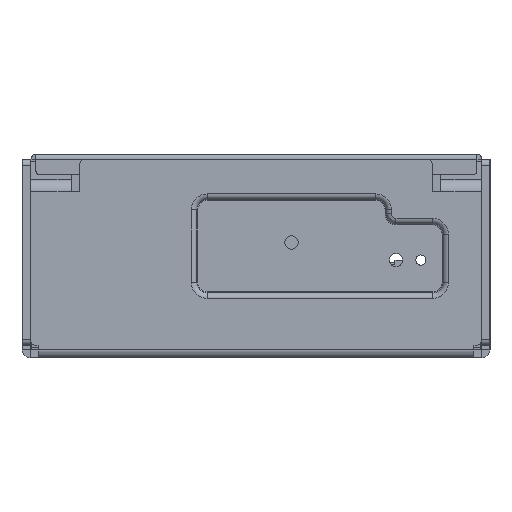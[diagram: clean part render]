
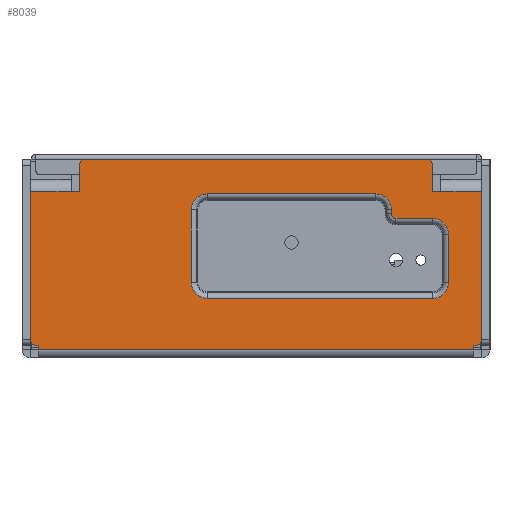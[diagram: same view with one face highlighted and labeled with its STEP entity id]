
A CAD part, left-side view. The second image highlights one B-rep face of the part: STEP entity #8039.
In plain terms, the highlighted planar face has unit normal (-1, 0, 0).
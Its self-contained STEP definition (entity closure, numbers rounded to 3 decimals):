
#1179=DIRECTION('',(0.,0.,1.));
#1180=VECTOR('',#1179,1.);
#1181=CARTESIAN_POINT('',(0.,-44.889,0.));
#1182=LINE('',#1181,#1180);
#1702=DIRECTION('',(0.,-1.,0.));
#1703=VECTOR('',#1702,107.);
#1704=CARTESIAN_POINT('',(0.,62.111,0.));
#1705=LINE('',#1704,#1703);
#1706=CARTESIAN_POINT('',(0.,50.511,45.3));
#1707=DIRECTION('',(1.,0.,0.));
#1708=DIRECTION('',(0.,1.,0.));
#1709=AXIS2_PLACEMENT_3D('',#1706,#1707,#1708);
#1711=CARTESIAN_POINT('',(0.,-33.289,45.3));
#1712=DIRECTION('',(1.,0.,0.));
#1713=DIRECTION('',(0.,0.,1.));
#1714=AXIS2_PLACEMENT_3D('',#1711,#1712,#1713);
#1716=DIRECTION('',(0.,0.,-1.));
#1717=VECTOR('',#1716,6.5);
#1718=CARTESIAN_POINT('',(0.,-34.789,45.3));
#1719=LINE('',#1718,#1717);
#1720=CARTESIAN_POINT('',(0.,-45.289,2.5));
#1721=DIRECTION('',(1.,0.,0.));
#1722=DIRECTION('',(0.,-1.,0.));
#1723=AXIS2_PLACEMENT_3D('',#1720,#1721,#1722);
#1725=DIRECTION('',(0.,0.,1.));
#1726=VECTOR('',#1725,1.);
#1727=CARTESIAN_POINT('',(0.,62.111,0.));
#1728=LINE('',#1727,#1726);
#1729=CARTESIAN_POINT('',(0.,62.511,2.5));
#1730=DIRECTION('',(1.,0.,0.));
#1731=DIRECTION('',(0.,0.,-1.));
#1732=AXIS2_PLACEMENT_3D('',#1729,#1730,#1731);
#1734=CARTESIAN_POINT('',(0.,-20.789,34.344));
#1735=DIRECTION('',(-1.,0.,0.));
#1736=DIRECTION('',(0.,-1.,0.));
#1737=AXIS2_PLACEMENT_3D('',#1734,#1735,#1736);
#1739=CARTESIAN_POINT('',(0.,20.611,34.344));
#1740=DIRECTION('',(-1.,0.,0.));
#1741=DIRECTION('',(0.,0.,1.));
#1742=AXIS2_PLACEMENT_3D('',#1739,#1740,#1741);
#1744=CARTESIAN_POINT('',(0.,20.611,16.5));
#1745=DIRECTION('',(-1.,0.,0.));
#1746=DIRECTION('',(0.,1.,0.));
#1747=AXIS2_PLACEMENT_3D('',#1744,#1745,#1746);
#1749=CARTESIAN_POINT('',(0.,-34.789,16.5));
#1750=DIRECTION('',(-1.,0.,0.));
#1751=DIRECTION('',(0.,0.,-1.));
#1752=AXIS2_PLACEMENT_3D('',#1749,#1750,#1751);
#1754=CARTESIAN_POINT('',(0.,-34.789,28.344));
#1755=DIRECTION('',(-1.,0.,0.));
#1756=DIRECTION('',(0.,-1.,0.));
#1757=AXIS2_PLACEMENT_3D('',#1754,#1755,#1756);
#1759=CARTESIAN_POINT('',(0.,-25.789,
33.344));
#1760=DIRECTION('',(1.,0.,0.));
#1761=DIRECTION('',(0.,0.,-1.));
#1762=AXIS2_PLACEMENT_3D('',#1759,#1760,#1761);
#1772=DIRECTION('',(0.,1.,0.));
#1773=VECTOR('',#1772,83.8);
#1774=CARTESIAN_POINT('',(0.,-33.289,46.8));
#1775=LINE('',#1774,#1773);
#1792=DIRECTION('',(0.,1.,0.));
#1793=VECTOR('',#1792,2.);
#1794=CARTESIAN_POINT('',(0.,-36.789,38.8));
#1795=LINE('',#1794,#1793);
#1810=DIRECTION('',(0.,1.,0.));
#1811=VECTOR('',#1810,10.);
#1812=CARTESIAN_POINT('',(0.,-46.789,38.8));
#1813=LINE('',#1812,#1811);
#1950=DIRECTION('',(0.,0.,1.));
#1951=VECTOR('',#1950,36.3);
#1952=CARTESIAN_POINT('',(0.,-46.789,2.5));
#1953=LINE('',#1952,#1951);
#1966=DIRECTION('',(0.,-1.,0.));
#1967=VECTOR('',#1966,0.4);
#1968=CARTESIAN_POINT('',(0.,-44.889,1.));
#1969=LINE('',#1968,#1967);
#1978=DIRECTION('',(0.,0.,-1.));
#1979=VECTOR('',#1978,6.5);
#1980=CARTESIAN_POINT('',(0.,52.011,45.3));
#1981=LINE('',#1980,#1979);
#1986=DIRECTION('',(0.,1.,0.));
#1987=VECTOR('',#1986,2.);
#1988=CARTESIAN_POINT('',(0.,52.011,38.8));
#1989=LINE('',#1988,#1987);
#2008=DIRECTION('',(0.,1.,0.));
#2009=VECTOR('',#2008,10.);
#2010=CARTESIAN_POINT('',(0.,54.011,38.8));
#2011=LINE('',#2010,#2009);
#2030=DIRECTION('',(0.,0.,-1.));
#2031=VECTOR('',#2030,36.3);
#2032=CARTESIAN_POINT('',(0.,64.011,38.8));
#2033=LINE('',#2032,#2031);
#2042=DIRECTION('',(0.,-1.,0.));
#2043=VECTOR('',#2042,0.4);
#2044=CARTESIAN_POINT('',(0.,62.511,1.));
#2045=LINE('',#2044,#2043);
#2261=DIRECTION('',(0.,0.,-1.));
#2262=VECTOR('',#2261,1.);
#2263=CARTESIAN_POINT('',(0.,-24.689,34.344));
#2264=LINE('',#2263,#2262);
#2298=DIRECTION('',(0.,-1.,0.));
#2299=VECTOR('',#2298,9.);
#2300=CARTESIAN_POINT('',(0.,-25.789,
32.244));
#2301=LINE('',#2300,#2299);
#2335=DIRECTION('',(0.,0.,-1.));
#2336=VECTOR('',#2335,11.844);
#2337=CARTESIAN_POINT('',(0.,-38.689,28.344));
#2338=LINE('',#2337,#2336);
#2349=DIRECTION('',(0.,1.,0.));
#2350=VECTOR('',#2349,55.4);
#2351=CARTESIAN_POINT('',(0.,-34.789,12.6));
#2352=LINE('',#2351,#2350);
#2401=DIRECTION('',(0.,0.,1.));
#2402=VECTOR('',#2401,17.844);
#2403=CARTESIAN_POINT('',(0.,24.511,16.5));
#2404=LINE('',#2403,#2402);
#2438=DIRECTION('',(0.,-1.,0.));
#2439=VECTOR('',#2438,41.4);
#2440=CARTESIAN_POINT('',(0.,20.611,38.244));
#2441=LINE('',#2440,#2439);
#5375=CARTESIAN_POINT('',(0.,62.111,0.));
#5376=VERTEX_POINT('',#5375);
#5379=CARTESIAN_POINT('',(0.,62.111,1.));
#5380=VERTEX_POINT('',#5379);
#5435=CARTESIAN_POINT('',(0.,-44.889,0.));
#5436=VERTEX_POINT('',#5435);
#5437=CARTESIAN_POINT('',(0.,-44.889,1.));
#5438=VERTEX_POINT('',#5437);
#5653=CARTESIAN_POINT('',(0.,52.011,45.3));
#5654=CARTESIAN_POINT('',(0.,50.511,46.8));
#5655=VERTEX_POINT('',#5653);
#5656=VERTEX_POINT('',#5654);
#5657=CARTESIAN_POINT('',(0.,-33.289,46.8));
#5658=VERTEX_POINT('',#5657);
#5659=CARTESIAN_POINT('',(0.,-34.789,45.3));
#5660=VERTEX_POINT('',#5659);
#5661=CARTESIAN_POINT('',(0.,-34.789,38.8));
#5662=VERTEX_POINT('',#5661);
#5663=CARTESIAN_POINT('',(0.,-36.789,38.8));
#5664=VERTEX_POINT('',#5663);
#5665=CARTESIAN_POINT('',(0.,-46.789,38.8));
#5666=VERTEX_POINT('',#5665);
#5667=CARTESIAN_POINT('',(0.,-46.789,2.5));
#5668=VERTEX_POINT('',#5667);
#5669=CARTESIAN_POINT('',(0.,-45.289,1.));
#5670=VERTEX_POINT('',#5669);
#5671=CARTESIAN_POINT('',(0.,62.511,1.));
#5672=VERTEX_POINT('',#5671);
#5673=CARTESIAN_POINT('',(0.,64.011,2.5));
#5674=VERTEX_POINT('',#5673);
#5675=CARTESIAN_POINT('',(0.,64.011,38.8));
#5676=VERTEX_POINT('',#5675);
#5677=CARTESIAN_POINT('',(0.,54.011,38.8));
#5678=VERTEX_POINT('',#5677);
#5679=CARTESIAN_POINT('',(0.,52.011,38.8));
#5680=VERTEX_POINT('',#5679);
#5681=CARTESIAN_POINT('',(0.,-24.689,34.344));
#5682=CARTESIAN_POINT('',(0.,-20.789,38.244));
#5683=VERTEX_POINT('',#5681);
#5684=VERTEX_POINT('',#5682);
#5685=CARTESIAN_POINT('',(0.,20.611,38.244));
#5686=VERTEX_POINT('',#5685);
#5687=CARTESIAN_POINT('',(0.,24.511,34.344));
#5688=VERTEX_POINT('',#5687);
#5689=CARTESIAN_POINT('',(0.,24.511,16.5));
#5690=VERTEX_POINT('',#5689);
#5691=CARTESIAN_POINT('',(0.,20.611,12.6));
#5692=VERTEX_POINT('',#5691);
#5693=CARTESIAN_POINT('',(0.,-34.789,12.6));
#5694=VERTEX_POINT('',#5693);
#5695=CARTESIAN_POINT('',(0.,-38.689,16.5));
#5696=VERTEX_POINT('',#5695);
#5697=CARTESIAN_POINT('',(0.,-38.689,28.344));
#5698=VERTEX_POINT('',#5697);
#5699=CARTESIAN_POINT('',(0.,-34.789,32.244));
#5700=VERTEX_POINT('',#5699);
#5701=CARTESIAN_POINT('',(0.,-25.789,
32.244));
#5702=VERTEX_POINT('',#5701);
#5703=CARTESIAN_POINT('',(0.,-24.689,
33.344));
#5704=VERTEX_POINT('',#5703);
#7973=CARTESIAN_POINT('',(0.,-46.889,-2.));
#7974=DIRECTION('',(-1.,0.,0.));
#7975=DIRECTION('',(0.,-1.,0.));
#7976=AXIS2_PLACEMENT_3D('',#7973,#7974,#7975);
#7977=PLANE('',#7976);
#7979=ORIENTED_EDGE('',*,*,#7978,.T.);
#7981=ORIENTED_EDGE('',*,*,#7980,.F.);
#7983=ORIENTED_EDGE('',*,*,#7982,.T.);
#7985=ORIENTED_EDGE('',*,*,#7984,.T.);
#7987=ORIENTED_EDGE('',*,*,#7986,.F.);
#7989=ORIENTED_EDGE('',*,*,#7988,.F.);
#7991=ORIENTED_EDGE('',*,*,#7990,.F.);
#7993=ORIENTED_EDGE('',*,*,#7992,.T.);
#7995=ORIENTED_EDGE('',*,*,#7994,.F.);
#7996=ORIENTED_EDGE('',*,*,#7354,.F.);
#7997=ORIENTED_EDGE('',*,*,#7967,.F.);
#7998=ORIENTED_EDGE('',*,*,#7272,.T.);
#8000=ORIENTED_EDGE('',*,*,#7999,.F.);
#8002=ORIENTED_EDGE('',*,*,#8001,.T.);
#8004=ORIENTED_EDGE('',*,*,#8003,.F.);
#8006=ORIENTED_EDGE('',*,*,#8005,.F.);
#8008=ORIENTED_EDGE('',*,*,#8007,.F.);
#8010=ORIENTED_EDGE('',*,*,#8009,.F.);
#8011=EDGE_LOOP('',(#7979,#7981,#7983,#7985,#7987,#7989,#7991,#7993,#7995,#7996,
#7997,#7998,#8000,#8002,#8004,#8006,#8008,#8010));
#8012=FACE_OUTER_BOUND('',#8011,.F.);
#8014=ORIENTED_EDGE('',*,*,#8013,.T.);
#8016=ORIENTED_EDGE('',*,*,#8015,.F.);
#8018=ORIENTED_EDGE('',*,*,#8017,.T.);
#8020=ORIENTED_EDGE('',*,*,#8019,.F.);
#8022=ORIENTED_EDGE('',*,*,#8021,.T.);
#8024=ORIENTED_EDGE('',*,*,#8023,.F.);
#8026=ORIENTED_EDGE('',*,*,#8025,.T.);
#8028=ORIENTED_EDGE('',*,*,#8027,.F.);
#8030=ORIENTED_EDGE('',*,*,#8029,.T.);
#8032=ORIENTED_EDGE('',*,*,#8031,.F.);
#8034=ORIENTED_EDGE('',*,*,#8033,.T.);
#8036=ORIENTED_EDGE('',*,*,#8035,.F.);
#8037=EDGE_LOOP('',(#8014,#8016,#8018,#8020,#8022,#8024,#8026,#8028,#8030,#8032,
#8034,#8036));
#8038=FACE_BOUND('',#8037,.F.);
#1710=CIRCLE('',#1709,1.5);
#1715=CIRCLE('',#1714,1.5);
#1724=CIRCLE('',#1723,1.5);
#1733=CIRCLE('',#1732,1.5);
#1738=CIRCLE('',#1737,3.9);
#1743=CIRCLE('',#1742,3.9);
#1748=CIRCLE('',#1747,3.9);
#1753=CIRCLE('',#1752,3.9);
#1758=CIRCLE('',#1757,3.9);
#1763=CIRCLE('',#1762,1.1);
#7272=EDGE_CURVE('',#5376,#5380,#1728,.T.);
#7354=EDGE_CURVE('',#5436,#5438,#1182,.T.);
#7967=EDGE_CURVE('',#5376,#5436,#1705,.T.);
#7978=EDGE_CURVE('',#5655,#5656,#1710,.T.);
#7980=EDGE_CURVE('',#5658,#5656,#1775,.T.);
#7982=EDGE_CURVE('',#5658,#5660,#1715,.T.);
#7984=EDGE_CURVE('',#5660,#5662,#1719,.T.);
#7986=EDGE_CURVE('',#5664,#5662,#1795,.T.);
#7988=EDGE_CURVE('',#5666,#5664,#1813,.T.);
#7990=EDGE_CURVE('',#5668,#5666,#1953,.T.);
#7992=EDGE_CURVE('',#5668,#5670,#1724,.T.);
#7994=EDGE_CURVE('',#5438,#5670,#1969,.T.);
#7999=EDGE_CURVE('',#5672,#5380,#2045,.T.);
#8001=EDGE_CURVE('',#5672,#5674,#1733,.T.);
#8003=EDGE_CURVE('',#5676,#5674,#2033,.T.);
#8005=EDGE_CURVE('',#5678,#5676,#2011,.T.);
#8007=EDGE_CURVE('',#5680,#5678,#1989,.T.);
#8009=EDGE_CURVE('',#5655,#5680,#1981,.T.);
#8013=EDGE_CURVE('',#5683,#5684,#1738,.T.);
#8015=EDGE_CURVE('',#5686,#5684,#2441,.T.);
#8017=EDGE_CURVE('',#5686,#5688,#1743,.T.);
#8019=EDGE_CURVE('',#5690,#5688,#2404,.T.);
#8021=EDGE_CURVE('',#5690,#5692,#1748,.T.);
#8023=EDGE_CURVE('',#5694,#5692,#2352,.T.);
#8025=EDGE_CURVE('',#5694,#5696,#1753,.T.);
#8027=EDGE_CURVE('',#5698,#5696,#2338,.T.);
#8029=EDGE_CURVE('',#5698,#5700,#1758,.T.);
#8031=EDGE_CURVE('',#5702,#5700,#2301,.T.);
#8033=EDGE_CURVE('',#5702,#5704,#1763,.T.);
#8035=EDGE_CURVE('',#5683,#5704,#2264,.T.);
#8039=ADVANCED_FACE('',(#8012,#8038),#7977,.T.);
